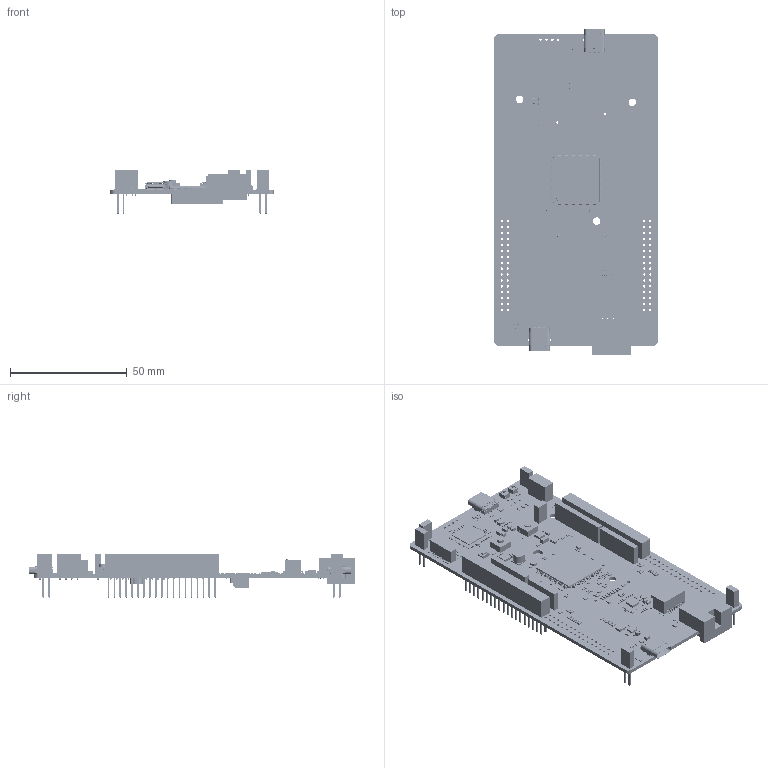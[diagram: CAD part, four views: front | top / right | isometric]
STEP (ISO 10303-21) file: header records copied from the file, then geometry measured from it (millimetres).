
FILE_DESCRIPTION(('Open CASCADE Model'),'2;1');
FILE_NAME('Open CASCADE Shape Model','2025-10-02T17:12:41',('Author'),( 'Open CASCADE'),'Open CASCADE STEP processor 7.5','Open CASCADE 7.5' ,'Unknown');
FILE_SCHEMA(('AUTOMOTIVE_DESIGN { 1 0 10303 214 1 1 1 1 }'));
Length unit declared in the file: millimetre
Products named in the file (577): PCB; Board; Open CASCADE STEP translator 7.5 1.1.1; R115; R0402; 7460464464; Extruded; U28; 7460463584; U27; U26; U25; U24; U20; SB13; R0603; 7460462224; R112; R111; 7460464144; R110; Q2; SOT23-3_TO-236AB; 7460457344; SB40; 7460454944; SB12; SB37; SB34; SB33; SB31; SB29; SB21; SB20; SB18; SB17; SB16; SB15; SB7; SB28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
Assembly tree (1329 placements, depth 4):
  PCB
    Board
      Open CASCADE STEP translator 7.5 1.1.1
    R115
      R0402
      7460464464
        Extruded
    U28
      7460463584
        Extruded
    U27
      7460463584
        Extruded
    U26
      7460463584
        Extruded
    U25
      7460463584
        Extruded
    U24
      7460463584
        Extruded
    U20
      7460463584
        Extruded
    SB13
      R0603
      7460462224
        Extruded
    R112
      R0402
      7460464464
        Extruded
    R111
      R0603
      7460464144
        Extruded
    R110
      R0402
      7460464464
        Extruded
    Q2
      SOT23-3_TO-236AB
      7460457344
        Extruded
    SB40
      R0603
      7460454944
        Extruded
    SB12
      R0603
      7460454944
        Extruded
    SB37
      R0603
      7460454944
        Extruded
    SB34
      R0603
      7460454944
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Bounding box: 70 x 139.76 x 18.67 mm (x, y, z)
Volume: 30327.8 mm3; surface area: 48361 mm2
Topology: 1257 solids, 1314 shells, 54478 faces, 131840 edges, 77797 vertices
Faces by surface type: plane 26295, cylinder 13703, bspline 8379, sphere 4560, torus 895, revolution 482, cone 164
Full cylindrical faces by diameter (mm): 0.3 x2, 0.4 x16, 0.5 x1, 0.6 x1, 0.65 x2, 0.7 x12, 1 x166, 1.1 x32, 1.15 x1, 1.5 x2, 1.65 x1, 3.2 x3, 4.05 x1, 4.15 x1, 5 x1, 5.6 x1
Entity records: 495630 total; most frequent: CARTESIAN_POINT 92921, ORIENTED_EDGE 71345, DIRECTION 68948, EDGE_CURVE 35708, LINE 29368, VECTOR 29368, VERTEX_POINT 22884, AXIS2_PLACEMENT_3D 19785
